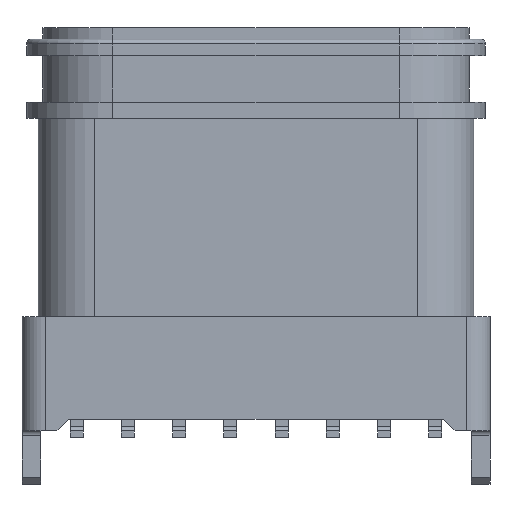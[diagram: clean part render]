
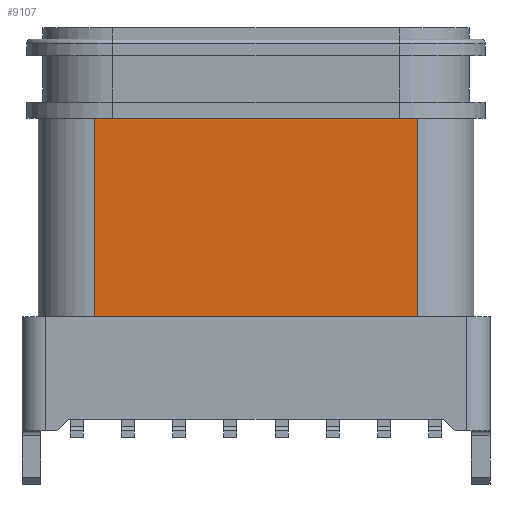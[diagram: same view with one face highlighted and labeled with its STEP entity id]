
A CAD part, front view. The second image highlights one B-rep face of the part: STEP entity #9107.
In plain terms, the highlighted planar face has unit normal (0, -1, 0).
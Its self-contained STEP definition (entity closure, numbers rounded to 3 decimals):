
#716 = AXIS2_PLACEMENT_3D ( 'NONE', #757, #3397, #26068 ) ;
#757 = CARTESIAN_POINT ( 'NONE',  ( 0., -1.78, -7.812 ) ) ;
#951 = CARTESIAN_POINT ( 'NONE',  ( 3.47, -1.78, -0.45 ) ) ;
#1450 = VECTOR ( 'NONE', #2562, 1000. ) ;
#1533 = DIRECTION ( 'NONE',  ( 0., 0., 1. ) ) ;
#2452 = DIRECTION ( 'NONE',  ( 1., 0., 0. ) ) ;
#2562 = DIRECTION ( 'NONE',  ( -1., 0., 0. ) ) ;
#3397 = DIRECTION ( 'NONE',  ( 0., -1., 0. ) ) ;
#4013 = LINE ( 'NONE', #10542, #24790 ) ;
#4864 = CARTESIAN_POINT ( 'NONE',  ( 3.47, -1.78, 3.8 ) ) ;
#5245 = ORIENTED_EDGE ( 'NONE', *, *, #6538, .T. ) ;
#5751 = VERTEX_POINT ( 'NONE', #951 ) ;
#5850 = LINE ( 'NONE', #5976, #13826 ) ;
#5976 = CARTESIAN_POINT ( 'NONE',  ( 3.47, -1.78, -0.45 ) ) ;
#6538 = EDGE_CURVE ( 'NONE', #5751, #14746, #5850, .T. ) ;
#7698 = ORIENTED_EDGE ( 'NONE', *, *, #20865, .T. ) ;
#7765 = LINE ( 'NONE', #22235, #11810 ) ;
#9107 = ADVANCED_FACE ( 'NONE', ( #22433 ), #13419, .T. ) ;
#10542 = CARTESIAN_POINT ( 'NONE',  ( -3.47, -1.78, 3.8 ) ) ;
#10904 = CARTESIAN_POINT ( 'NONE',  ( 3.47, -1.78, -0.45 ) ) ;
#11810 = VECTOR ( 'NONE', #22364, 1000. ) ;
#12555 = CARTESIAN_POINT ( 'NONE',  ( -3.47, -1.78, -0.45 ) ) ;
#13419 = PLANE ( 'NONE',  #716 ) ;
#13826 = VECTOR ( 'NONE', #1533, 1000. ) ;
#14145 = VERTEX_POINT ( 'NONE', #12555 ) ;
#14746 = VERTEX_POINT ( 'NONE', #4864 ) ;
#15189 = EDGE_LOOP ( 'NONE', ( #15997, #5245, #25670, #7698 ) ) ;
#15397 = EDGE_CURVE ( 'NONE', #5751, #14145, #26721, .T. ) ;
#15972 = EDGE_CURVE ( 'NONE', #20895, #14746, #4013, .T. ) ;
#15997 = ORIENTED_EDGE ( 'NONE', *, *, #15397, .F. ) ;
#19875 = CARTESIAN_POINT ( 'NONE',  ( -3.47, -1.78, 3.8 ) ) ;
#20865 = EDGE_CURVE ( 'NONE', #20895, #14145, #7765, .T. ) ;
#20895 = VERTEX_POINT ( 'NONE', #19875 ) ;
#22235 = CARTESIAN_POINT ( 'NONE',  ( -3.47, -1.78, 3.8 ) ) ;
#22364 = DIRECTION ( 'NONE',  ( 0., 0., -1. ) ) ;
#22433 = FACE_OUTER_BOUND ( 'NONE', #15189, .T. ) ;
#24790 = VECTOR ( 'NONE', #2452, 1000. ) ;
#25670 = ORIENTED_EDGE ( 'NONE', *, *, #15972, .F. ) ;
#26068 = DIRECTION ( 'NONE',  ( 0., 0., -1. ) ) ;
#26721 = LINE ( 'NONE', #10904, #1450 ) ;
